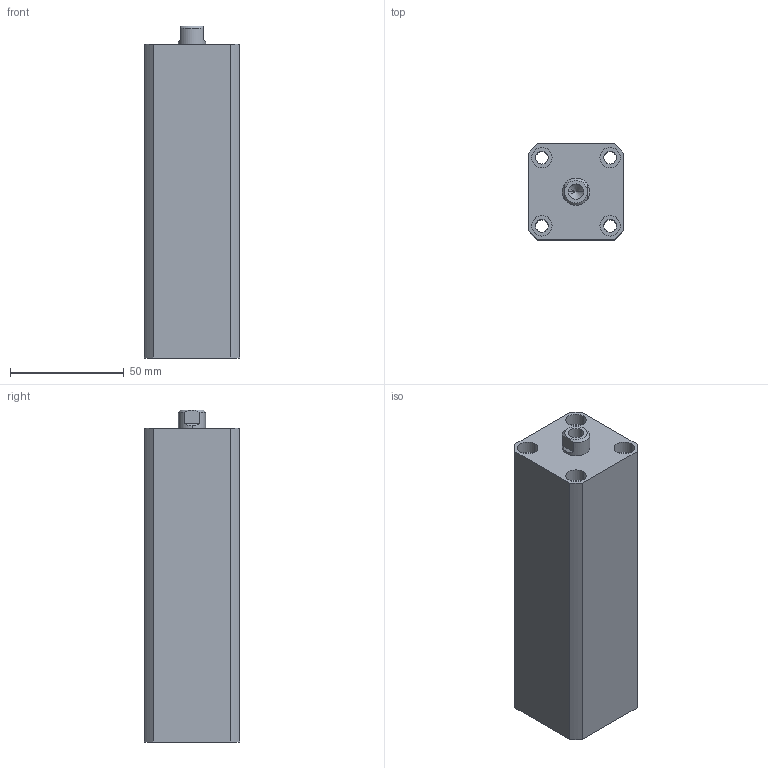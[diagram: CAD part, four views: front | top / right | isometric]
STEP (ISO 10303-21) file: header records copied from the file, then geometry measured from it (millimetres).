
FILE_DESCRIPTION (( 'STEP AP203' ), '1' );
FILE_NAME ('HTB-SDMB20-95N.STEP', '2019-10-09T00:11:03', ( '微软用户' ), ( '微软中国' ), 'SwSTEP 2.0', 'SolidWorks 2012', '' );
FILE_SCHEMA (( 'CONFIG_CONTROL_DESIGN' ));
Length unit declared in the file: millimetre
Products named in the file (3): HTB-SDMB20-95N; HTB-SDMB20-95N活塞杆; HTB-SDMB20-95掛极
Assembly tree (2 placements, depth 2):
  HTB-SDMB20-95N
    HTB-SDMB20-95掛极
    HTB-SDMB20-95N活塞杆
Bounding box: 42 x 42 x 146 mm (x, y, z)
Volume: 204880.3 mm3; surface area: 50069.7 mm2
Topology: 2 solids, 2 shells, 136 faces, 326 edges, 213 vertices
Faces by surface type: plane 64, cylinder 46, bspline 16, torus 6, cone 4
Entity records: 5023 total; most frequent: CARTESIAN_POINT 1570, ORIENTED_EDGE 648, DIRECTION 640, EDGE_CURVE 324, AXIS2_PLACEMENT_3D 231, VERTEX_POINT 213, LINE 178, VECTOR 178
